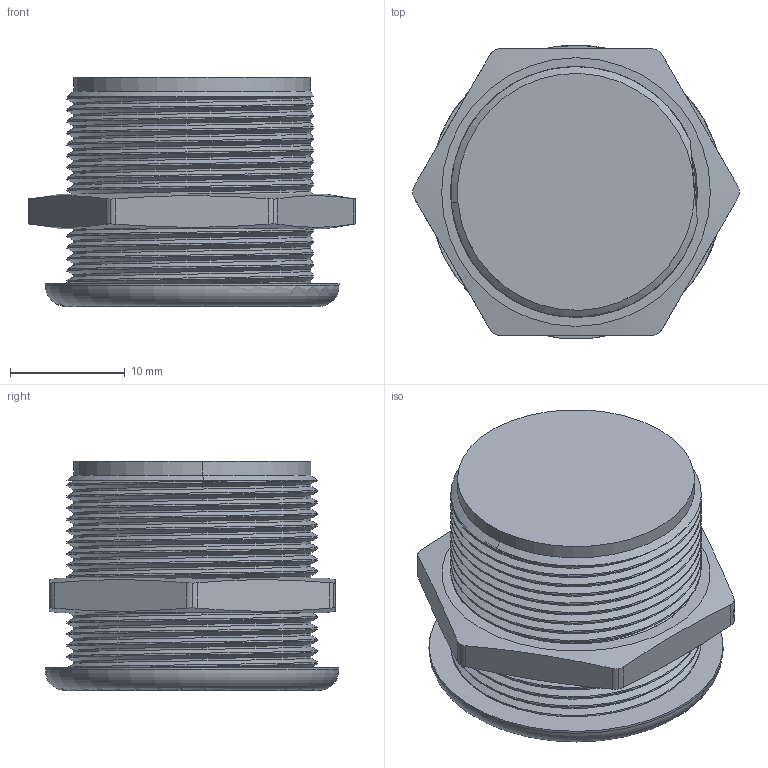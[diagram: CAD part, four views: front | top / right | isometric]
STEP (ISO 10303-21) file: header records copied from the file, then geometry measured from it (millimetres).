
FILE_DESCRIPTION(('HOOPS Exchange Step'),'2;1');
FILE_NAME('/Users/vincent/Library/Containers/com.shapr3d.shapr/Data/tmp/export/temp_export','2024-11-22T12:51:37+01:00',('vincent'),('Shapr3D Limited'),'HOOPS Exchange 2024.6','Shapr3D','Authorized');
FILE_SCHEMA( ('AP242_MANAGED_MODEL_BASED_3D_ENGINEERING_MIM_LF {1 0 10303 442 1 1 4 }') );
Length unit declared in the file: millimetre
Products named in the file (2): BPSI 22; root
Assembly tree (1 placements, depth 2):
  root
    BPSI 22
Bounding box: 28.56 x 25.64 x 20 mm (x, y, z)
Volume: 7780 mm3; surface area: 3983.6 mm2
Topology: 2 solids, 2 shells, 158 faces, 461 edges, 308 vertices
Faces by surface type: cylinder 91, bspline 38, plane 18, cone 7, torus 3, sphere 1
Full cylindrical faces by diameter (mm): 21.035 x2, 22.152 x2
Entity records: 38281 total; most frequent: CARTESIAN_POINT 34670, ORIENTED_EDGE 920, DIRECTION 475, EDGE_CURVE 460, VERTEX_POINT 308, B_SPLINE_CURVE_WITH_KNOTS 262, AXIS2_PLACEMENT_3D 168, EDGE_LOOP 162
